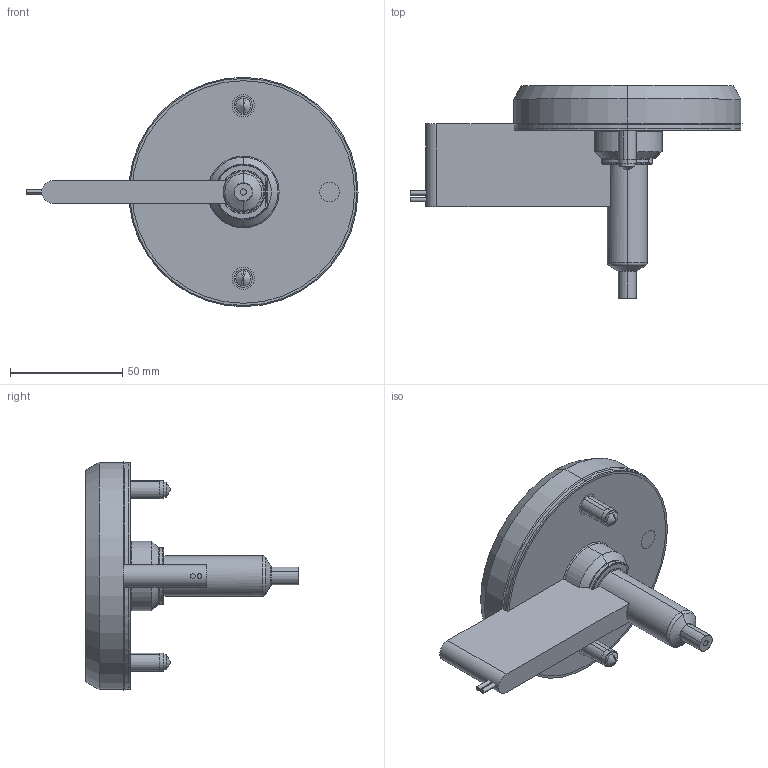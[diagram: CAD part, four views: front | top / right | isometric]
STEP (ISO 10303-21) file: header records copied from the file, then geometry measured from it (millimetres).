
FILE_DESCRIPTION (( 'STEP AP214' ), '1' );
FILE_NAME ('SOHSB4050-SOFBOP04EX.STEP', '2024-11-28T12:59:12', ( '' ), ( '' ), 'SwSTEP 2.0', 'SolidWorks 2022', '' );
FILE_SCHEMA (( 'AUTOMOTIVE_DESIGN' ));
Length unit declared in the file: millimetre
Products named in the file (11): EcoONE-HSB-04-Open Gate Cut-out Details_Ext Sprue Gate or Full Body Gate; EcoONE-HSB04-04005(A)_SOTC10200-J; EcoONE-HSB04-04006(A)_SONHC04; SOHSB4050-SOFBOP04EX; EcoONE-HSB04-04003(A)_SOHSBNB4050; EcoONE-HSB04-Open Gate Extended Full Body Retainer Tip_SOFRT0402; EcoONE-HSB04-04004(A)_SONH10047; EcoONE-HSB04-Open Gate Extended Full Body Standad Tip Assembly_SOFBOP04EX; EcoONE-HSB04-00002(A)_SOHSBLR04; socket head cap screw_iso_ISO 4762 M8 x 25 - 25N; EcoONE-HSB04-Point Gate Needle Tip-Standard_SOPGN0401
Assembly tree (12 placements, depth 3):
  SOHSB4050-SOFBOP04EX
    EcoONE-HSB04-04003(A)_SOHSBNB4050
    EcoONE-HSB04-04004(A)_SONH10047
    EcoONE-HSB04-04005(A)_SOTC10200-J
    EcoONE-HSB04-04006(A)_SONHC04  x2
    EcoONE-HSB04-00002(A)_SOHSBLR04
    socket head cap screw_iso_ISO 4762 M8 x 25 - 25N  x2
    EcoONE-HSB04-Open Gate Extended Full Body Standad Tip Assembly_SOFBOP04EX
      EcoONE-HSB04-Open Gate Extended Full Body Retainer Tip_SOFRT0402
      EcoONE-HSB04-Point Gate Needle Tip-Standard_SOPGN0401
    EcoONE-HSB-04-Open Gate Cut-out Details_Ext Sprue Gate or Full Body Gate
Bounding box: 148.2 x 95 x 102.4 mm (x, y, z)
Volume: 220413.2 mm3; surface area: 67292 mm2
Topology: 11 solids, 11 shells, 514 faces, 1283 edges, 802 vertices
Faces by surface type: cylinder 155, plane 137, bspline 97, cone 87, torus 30, sphere 8
Entity records: 25791 total; most frequent: CARTESIAN_POINT 14352, ORIENTED_EDGE 2342, DIRECTION 2006, EDGE_CURVE 1171, AXIS2_PLACEMENT_3D 810, VERTEX_POINT 739, EDGE_LOOP 510, FACE_OUTER_BOUND 471
